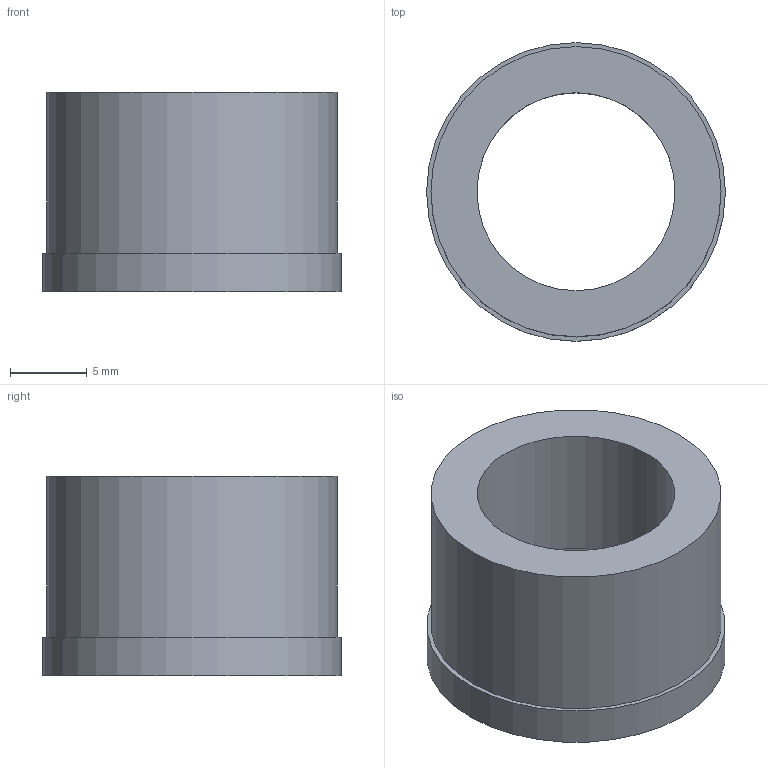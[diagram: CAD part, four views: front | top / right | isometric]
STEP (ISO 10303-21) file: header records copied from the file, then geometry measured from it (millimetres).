
FILE_DESCRIPTION (( 'STEP AP214' ), '1' );
FILE_NAME ('JF-20404-0003.STEP', '2018-05-18T07:50:46', ( '' ), ( '' ), 'SwSTEP 2.0', 'SolidWorks 2017', '' );
FILE_SCHEMA (( 'AUTOMOTIVE_DESIGN' ));
Length unit declared in the file: millimetre
Products named in the file (1): JF-20404-0003
Bounding box: 19.5 x 19.5 x 13 mm (x, y, z)
Volume: 1833.8 mm3; surface area: 1623.5 mm2
Topology: 1 solids, 1 shells, 11 faces, 20 edges, 13 vertices
Faces by surface type: plane 4, cylinder 4, cone 3
Full cylindrical faces by diameter (mm): 12.92 x1, 15 x1, 18.938 x1, 19.5 x1
Entity records: 262 total; most frequent: DIRECTION 46, CARTESIAN_POINT 34, AXIS2_PLACEMENT_3D 23, ORIENTED_EDGE 22, EDGE_LOOP 22, FACE_OUTER_BOUND 15, ADVANCED_FACE 11, CIRCLE 11
